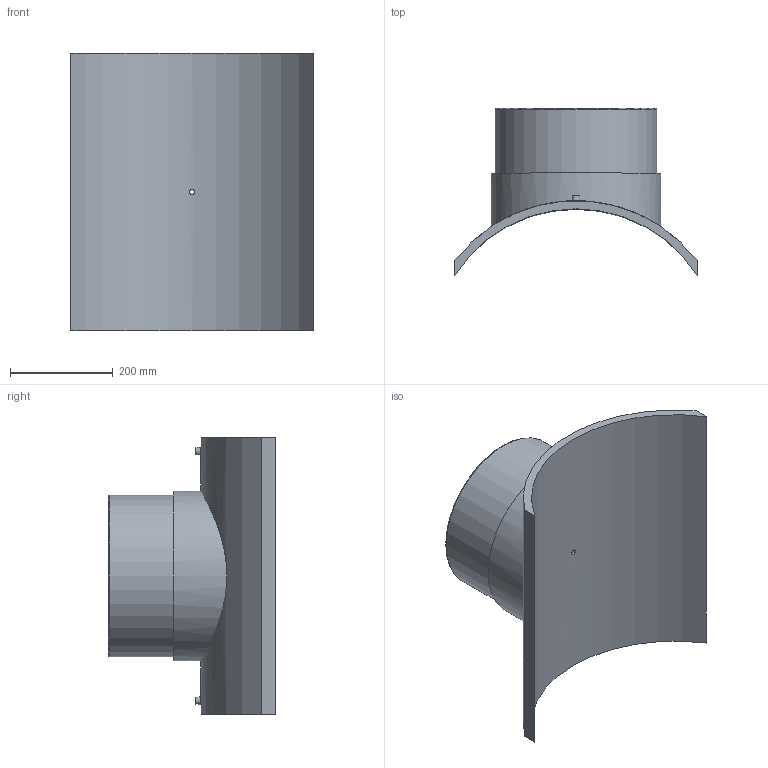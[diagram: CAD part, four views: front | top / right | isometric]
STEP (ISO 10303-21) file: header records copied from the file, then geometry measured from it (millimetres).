
FILE_DESCRIPTION(/* description */ ('PLASSON BRANCH SADDLE 560x315'),/* implementation_level */ '2;1');
FILE_NAME(/* name */ 'C:\Dropbox\KIMPROJECTS-Inventor 2019\99-16-3568-Processing\ElectroFusion Fittings\495803\stp\495803560315T.stp',/* time_stamp */ '2024-04-04T11:49:21+02:00',/* author */ ('KIM'),/* organization */ (''),/* preprocessor_version */ 'ST-DEVELOPER v17.2',/* originating_system */ 'Autodesk Inventor 2019',/* authorisation */ '');
FILE_SCHEMA (('AUTOMOTIVE_DESIGN { 1 0 10303 214 3 1 1 }'));
Length unit declared in the file: millimetre
Products named in the file (1): 495803560315T
Bounding box: 472 x 325.32 x 540 mm (x, y, z)
Volume: 10964821 mm3; surface area: 1010860.9 mm2
Topology: 1 solids, 1 shells, 29 faces, 60 edges, 43 vertices
Faces by surface type: plane 13, cylinder 12, torus 2, cone 2
Full cylindrical faces by diameter (mm): 4 x2, 9.6 x1, 10 x2, 16 x1, 252 x1, 315 x1, 330.75 x1
Entity records: 1102 total; most frequent: CARTESIAN_POINT 416, DIRECTION 139, ORIENTED_EDGE 120, EDGE_CURVE 60, AXIS2_PLACEMENT_3D 60, VERTEX_POINT 43, EDGE_LOOP 41, CIRCLE 30
